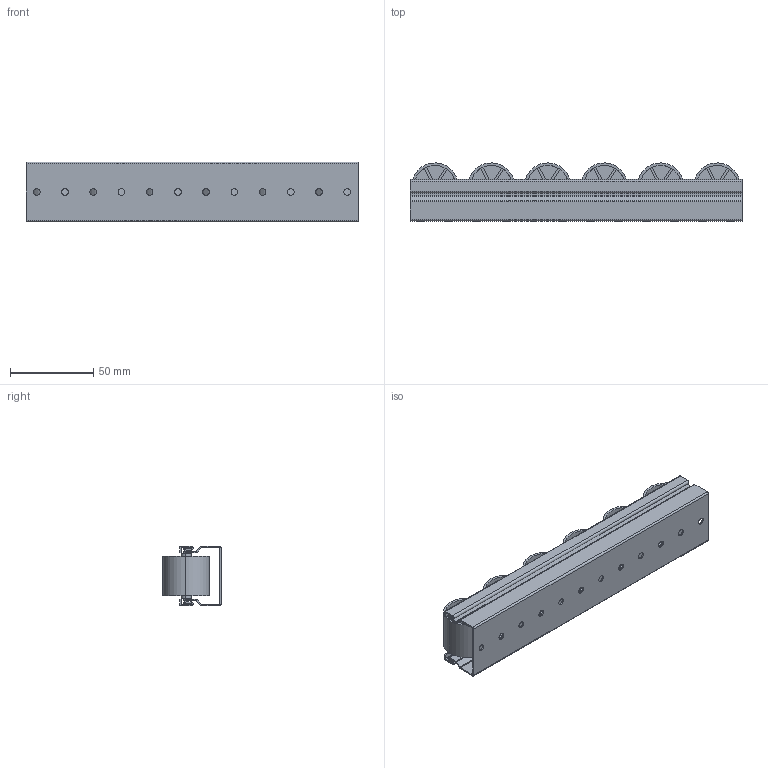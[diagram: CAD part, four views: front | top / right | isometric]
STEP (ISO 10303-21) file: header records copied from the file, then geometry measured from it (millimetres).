
FILE_DESCRIPTION (( 'STEP AP203' ), '1' );
FILE_NAME ('800.029.005.STEP', '2014-09-11T06:34:40', ( '' ), ( '' ), 'SwSTEP 2.0', 'SolidWorks 2012', '' );
FILE_SCHEMA (( 'CONFIG_CONTROL_DESIGN' ));
Length unit declared in the file: millimetre
Products named in the file (1): 800.029.005
Bounding box: 200 x 34.98 x 36 mm (x, y, z)
Volume: 57548.1 mm3; surface area: 88749 mm2
Topology: 7 solids, 7 shells, 662 faces, 1960 edges, 1292 vertices
Faces by surface type: plane 398, cylinder 264
Entity records: 22917 total; most frequent: CARTESIAN_POINT 4619, ORIENTED_EDGE 3920, DIRECTION 3882, EDGE_CURVE 1960, AXIS2_PLACEMENT_3D 1435, VERTEX_POINT 1292, LINE 1012, VECTOR 1012
